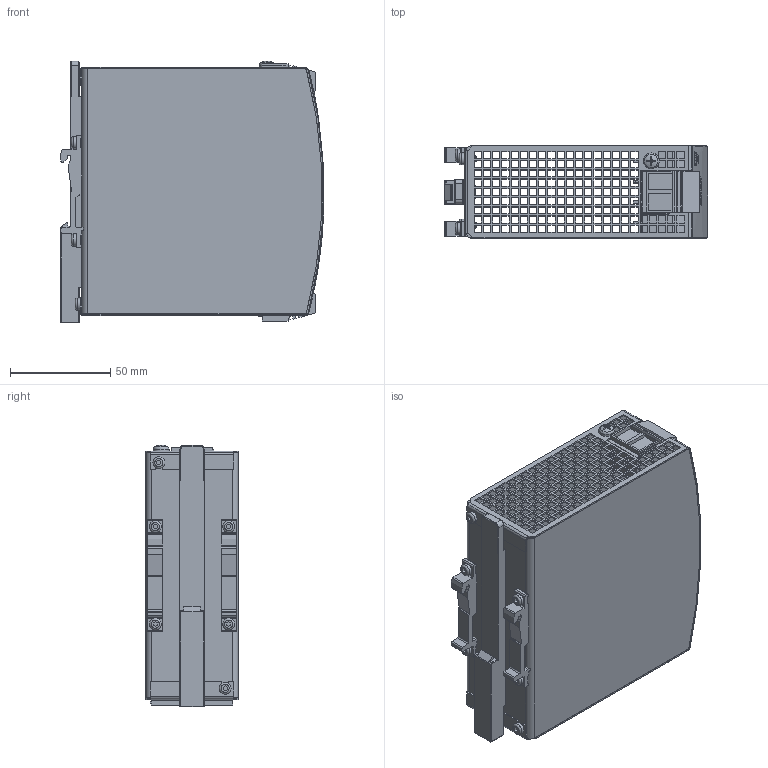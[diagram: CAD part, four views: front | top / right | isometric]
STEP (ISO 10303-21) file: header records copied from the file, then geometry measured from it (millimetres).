
FILE_DESCRIPTION((''),'2;1');
FILE_NAME('C:\Users\rahns\Desktop\Frodl\md3_yr40_482.stp','2014-03-06T11:34:36',('rahns'),(''),'Autodesk Inventor 2009','Autodesk Inventor 2009','');
FILE_SCHEMA(('AUTOMOTIVE_DESIGN { 1 0 10303 214 1 1 1 1 }'));
Length unit declared in the file: millimetre
Products named in the file (9): 401; HOUSING BODY 401; FRONTFOIL 401; HOUSING COVER 402; T HOLDER; SCREW 3x6; SLIDER; SCREW 4x8; XT-LP2BK-D5
Assembly tree (16 placements, depth 2):
  401
    HOUSING BODY 401
    FRONTFOIL 401
    HOUSING COVER 402
    T HOLDER  x2
    SCREW 3x6  x6
    SLIDER
    SCREW 4x8
    XT-LP2BK-D5  x3
Bounding box: 131.34 x 46 x 130.67 mm (x, y, z)
Volume: 100410.1 mm3; surface area: 122896.9 mm2
Topology: 16 solids, 16 shells, 2680 faces, 7637 edges, 5092 vertices
Faces by surface type: plane 2149, bspline 287, cylinder 201, cone 18, torus 16, sphere 9
Full cylindrical faces by diameter (mm): 0.5 x3, 2.45 x4, 3 x6, 3.1 x4, 3.621 x1, 4 x1, 4.5 x1, 6 x6, 7 x6
Entity records: 85492 total; most frequent: CARTESIAN_POINT 21644, ORIENTED_EDGE 13846, DIRECTION 11260, EDGE_CURVE 6923, VECTOR 5682, LINE 5682, VERTEX_POINT 4622, EDGE_LOOP 3217
